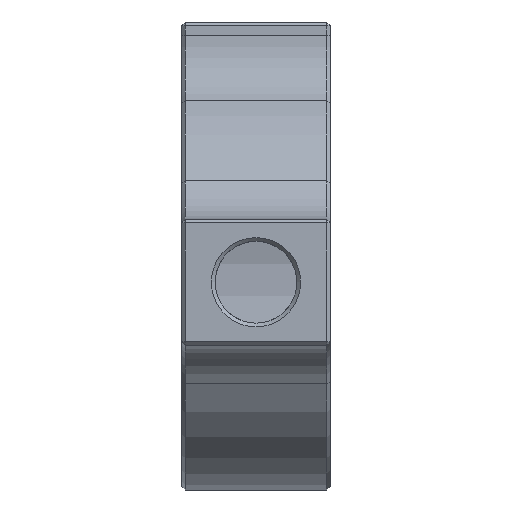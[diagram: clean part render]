
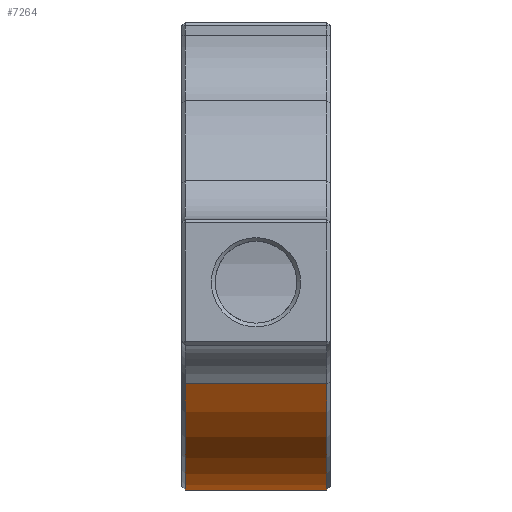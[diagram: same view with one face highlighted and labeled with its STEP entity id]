
A CAD part, left-side view. The second image highlights one B-rep face of the part: STEP entity #7264.
In plain terms, the highlighted cylindrical face has radius 28 mm (diameter 56 mm), a partial arc.
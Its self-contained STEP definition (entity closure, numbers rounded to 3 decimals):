
#169 = CARTESIAN_POINT ( 'NONE',  ( 0., 0.5, 0. ) ) ;
#399 = DIRECTION ( 'NONE',  ( 0., -1., 0. ) ) ;
#455 = CIRCLE ( 'NONE', #6990, 28. ) ;
#482 = VERTEX_POINT ( 'NONE', #910 ) ;
#638 = CARTESIAN_POINT ( 'NONE',  ( -24.458, 20., -13.632 ) ) ;
#683 = VERTEX_POINT ( 'NONE', #2294 ) ;
#910 = CARTESIAN_POINT ( 'NONE',  ( 19.324, 0.5, -20.263 ) ) ;
#1052 = EDGE_CURVE ( 'NONE', #4108, #683, #2541, .T. ) ;
#1232 = EDGE_LOOP ( 'NONE', ( #6595, #4181, #6067, #1437 ) ) ;
#1437 = ORIENTED_EDGE ( 'NONE', *, *, #5968, .T. ) ;
#1621 = FACE_OUTER_BOUND ( 'NONE', #1232, .T. ) ;
#1667 = CIRCLE ( 'NONE', #5308, 28. ) ;
#1868 = DIRECTION ( 'NONE',  ( 0., -1., 0. ) ) ;
#1994 = CARTESIAN_POINT ( 'NONE',  ( 19.324, 19.5, -20.263 ) ) ;
#2236 = AXIS2_PLACEMENT_3D ( 'NONE', #2883, #399, #3509 ) ;
#2294 = CARTESIAN_POINT ( 'NONE',  ( -24.458, 19.5, -13.632 ) ) ;
#2541 = LINE ( 'NONE', #638, #6565 ) ;
#2577 = DIRECTION ( 'NONE',  ( 0., 1., 0. ) ) ;
#2679 = VECTOR ( 'NONE', #4815, 1000. ) ;
#2844 = CYLINDRICAL_SURFACE ( 'NONE', #2236, 28. ) ;
#2883 = CARTESIAN_POINT ( 'NONE',  ( 0., 20., 0. ) ) ;
#2973 = CARTESIAN_POINT ( 'NONE',  ( 19.324, 20., -20.263 ) ) ;
#3509 = DIRECTION ( 'NONE',  ( 0., 0., -1. ) ) ;
#3665 = EDGE_CURVE ( 'NONE', #683, #3975, #1667, .T. ) ;
#3975 = VERTEX_POINT ( 'NONE', #1994 ) ;
#4108 = VERTEX_POINT ( 'NONE', #6398 ) ;
#4180 = EDGE_CURVE ( 'NONE', #3975, #482, #6150, .T. ) ;
#4181 = ORIENTED_EDGE ( 'NONE', *, *, #3665, .T. ) ;
#4815 = DIRECTION ( 'NONE',  ( 0., -1., 0. ) ) ;
#5308 = AXIS2_PLACEMENT_3D ( 'NONE', #7251, #1868, #5963 ) ;
#5963 = DIRECTION ( 'NONE',  ( 0., 0., 1. ) ) ;
#5968 = EDGE_CURVE ( 'NONE', #482, #4108, #455, .T. ) ;
#6067 = ORIENTED_EDGE ( 'NONE', *, *, #4180, .T. ) ;
#6150 = LINE ( 'NONE', #2973, #2679 ) ;
#6398 = CARTESIAN_POINT ( 'NONE',  ( -24.458, 0.5, -13.632 ) ) ;
#6565 = VECTOR ( 'NONE', #7246, 1000. ) ;
#6595 = ORIENTED_EDGE ( 'NONE', *, *, #1052, .T. ) ;
#6990 = AXIS2_PLACEMENT_3D ( 'NONE', #169, #2577, #7472 ) ;
#7246 = DIRECTION ( 'NONE',  ( 0., 1., 0. ) ) ;
#7251 = CARTESIAN_POINT ( 'NONE',  ( 0., 19.5, 0. ) ) ;
#7264 = ADVANCED_FACE ( 'NONE', ( #1621 ), #2844, .T. ) ;
#7472 = DIRECTION ( 'NONE',  ( 0., 0., 1. ) ) ;
